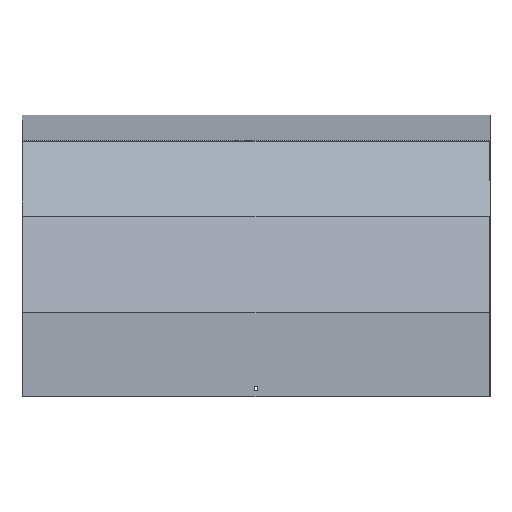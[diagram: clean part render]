
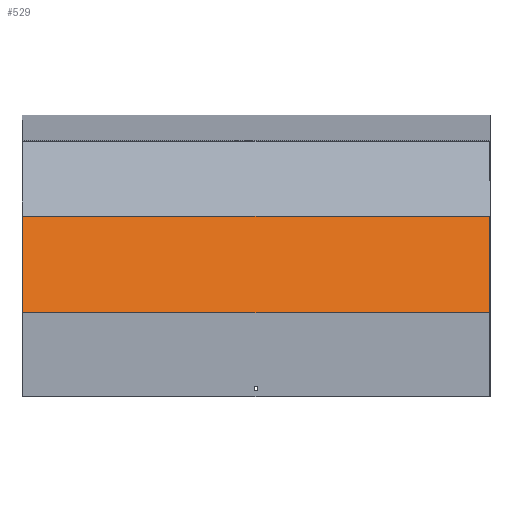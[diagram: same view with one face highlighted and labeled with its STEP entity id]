
A CAD part, top view. The second image highlights one B-rep face of the part: STEP entity #529.
In plain terms, the highlighted planar face has unit normal (0, 0.259, 0.966).
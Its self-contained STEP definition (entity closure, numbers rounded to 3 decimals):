
#39 = DIRECTION ( 'NONE',  ( -1., 0., 0. ) ) ;
#121 = EDGE_CURVE ( 'NONE', #605, #448, #206, .T. ) ;
#149 = DIRECTION ( 'NONE',  ( -1., 0., 0. ) ) ;
#159 = DIRECTION ( 'NONE',  ( 0., -0.259, -0.966 ) ) ;
#206 = LINE ( 'NONE', #633, #846 ) ;
#236 = CARTESIAN_POINT ( 'NONE',  ( -451.5, -175.415, 494.514 ) ) ;
#261 = ORIENTED_EDGE ( 'NONE', *, *, #121, .T. ) ;
#309 = PLANE ( 'NONE',  #1001 ) ;
#313 = CARTESIAN_POINT ( 'NONE',  ( -451.5, -180.591, 495.901 ) ) ;
#345 = LINE ( 'NONE', #826, #798 ) ;
#358 = VECTOR ( 'NONE', #664, 1000. ) ;
#398 = CARTESIAN_POINT ( 'NONE',  ( 451.5, -361.831, 544.464 ) ) ;
#400 = CARTESIAN_POINT ( 'NONE',  ( 451.5, -180.591, 495.901 ) ) ;
#448 = VERTEX_POINT ( 'NONE', #236 ) ;
#482 = ORIENTED_EDGE ( 'NONE', *, *, #812, .T. ) ;
#529 = ADVANCED_FACE ( 'NONE', ( #835 ), #309, .F. ) ;
#536 = VERTEX_POINT ( 'NONE', #852 ) ;
#575 = VERTEX_POINT ( 'NONE', #398 ) ;
#587 = CARTESIAN_POINT ( 'NONE',  ( 451.5, -175.415, 494.514 ) ) ;
#605 = VERTEX_POINT ( 'NONE', #587 ) ;
#616 = ORIENTED_EDGE ( 'NONE', *, *, #691, .F. ) ;
#633 = CARTESIAN_POINT ( 'NONE',  ( 451.5, -175.415, 494.514 ) ) ;
#644 = EDGE_LOOP ( 'NONE', ( #482, #934, #616, #261 ) ) ;
#664 = DIRECTION ( 'NONE',  ( 0., -0.966, 0.259 ) ) ;
#691 = EDGE_CURVE ( 'NONE', #605, #575, #345, .T. ) ;
#748 = VECTOR ( 'NONE', #149, 1000. ) ;
#798 = VECTOR ( 'NONE', #1084, 1000. ) ;
#803 = EDGE_CURVE ( 'NONE', #575, #536, #920, .T. ) ;
#812 = EDGE_CURVE ( 'NONE', #448, #536, #1092, .T. ) ;
#821 = CARTESIAN_POINT ( 'NONE',  ( 451.5, -361.831, 544.464 ) ) ;
#826 = CARTESIAN_POINT ( 'NONE',  ( 451.5, -180.591, 495.901 ) ) ;
#835 = FACE_OUTER_BOUND ( 'NONE', #644, .T. ) ;
#841 = DIRECTION ( 'NONE',  ( 0., 0.966, -0.259 ) ) ;
#846 = VECTOR ( 'NONE', #39, 1000. ) ;
#852 = CARTESIAN_POINT ( 'NONE',  ( -451.5, -361.831, 544.464 ) ) ;
#920 = LINE ( 'NONE', #821, #748 ) ;
#934 = ORIENTED_EDGE ( 'NONE', *, *, #803, .F. ) ;
#1001 = AXIS2_PLACEMENT_3D ( 'NONE', #400, #159, #841 ) ;
#1084 = DIRECTION ( 'NONE',  ( 0., -0.966, 0.259 ) ) ;
#1092 = LINE ( 'NONE', #313, #358 ) ;
